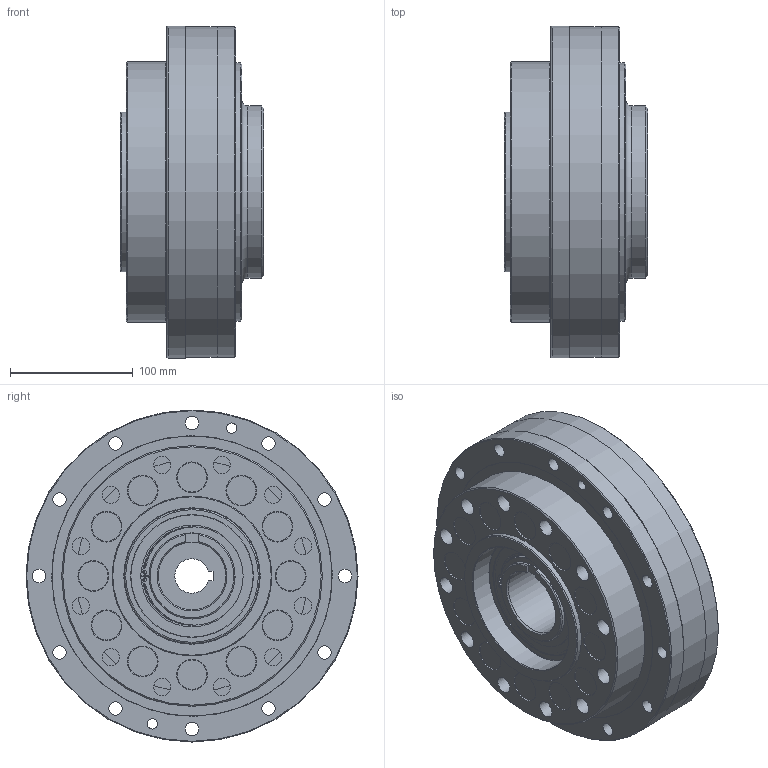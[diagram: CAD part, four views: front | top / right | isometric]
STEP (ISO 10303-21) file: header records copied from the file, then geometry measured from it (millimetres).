
FILE_DESCRIPTION(/* description */ ('Katalogmodell FC-A65G '),/* implementation_level */ '2;1');
FILE_NAME(/* name */ 'C:\Users\ADMINI~1\AppData\Local\Temp\MM16_01_05_Katalogmodell_FC-A65G_.stp',/* time_stamp */ '2018-06-12T17:13:54+02:00',/* author */ ('Max'),/* organization */ (''),/* preprocessor_version */ 'ST-DEVELOPER v17',/* originating_system */ 'Autodesk Inventor 2018',/* authorisation */ '');
FILE_SCHEMA (('AUTOMOTIVE_DESIGN { 1 0 10303 214 3 1 1 }'));
Length unit declared in the file: millimetre
Products named in the file (15): 16_01_05; MM554964-1bg; 133300; 133292; 133293; 240K070----NG; 241K110----NG; M204461; M204461-1; M204461-2; M204461-4; M204461-3; 200418; MM133773; MM133291
Assembly tree (22 placements, depth 4):
  16_01_05
    MM554964-1bg
      133300
      133292
      133293
      240K070----NG  x2
      241K110----NG
      M204461  x2
        M204461-1
        M204461-2
        M204461-4
        M204461-3
      200418  x4
    MM133773
    MM133291
Bounding box: 117 x 270 x 270 mm (x, y, z)
Volume: 4029981.9 mm3; surface area: 620277.7 mm2
Topology: 26 solids, 26 shells, 450 faces, 1259 edges, 905 vertices
Faces by surface type: cylinder 190, plane 145, torus 57, sphere 32, cone 26
Full cylindrical faces by diameter (mm): 3 x4, 3.5 x2, 4.917 x4, 6 x4, 6.6 x4, 8.376 x2, 10 x4, 11 x30, 13.835 x2, 14 x10, 20 x12, 24 x12, 25 x12, 55 x1, 67 x2, 70 x6, 74.8 x1, 80.118 x4, 82.8 x2, 83 x1, 95.65 x2, 97.4 x4, 99.4 x2, 99.9 x2, 100 x1, 103 x1, 110 x5, 114 x1, 120 x1, 130 x1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
Entity records: 10942 total; most frequent: CARTESIAN_POINT 1996, DIRECTION 1972, ORIENTED_EDGE 1572, AXIS2_PLACEMENT_3D 869, EDGE_CURVE 786, VERTEX_POINT 566, CIRCLE 523, EDGE_LOOP 488
